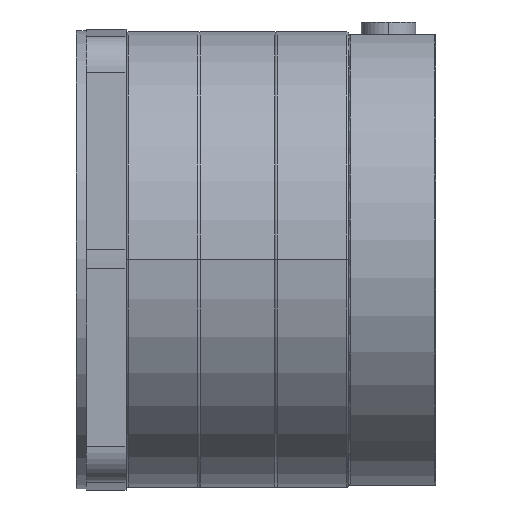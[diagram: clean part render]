
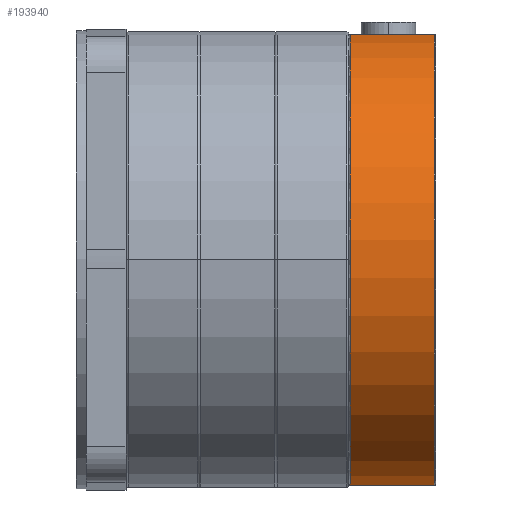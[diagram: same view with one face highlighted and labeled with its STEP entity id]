
A CAD part, top view. The second image highlights one B-rep face of the part: STEP entity #193940.
In plain terms, the highlighted cylindrical face has radius 92 mm (diameter 184 mm), a partial arc.
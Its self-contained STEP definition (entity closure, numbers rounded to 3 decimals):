
#56490=CARTESIAN_POINT('',(87.,0.,0.
));
#56500=DIRECTION('',(1.,0.,0.));
#56510=DIRECTION('',(0.,0.,-1.));
#56520=AXIS2_PLACEMENT_3D('',#56490,#56500,#56510);
#56530=CIRCLE('',#56520,92.);
#59300=CARTESIAN_POINT('',(104.,0.,
0.));
#59310=DIRECTION('',(-1.,0.,0.));
#59320=DIRECTION('',(0.,0.,-1.));
#59330=AXIS2_PLACEMENT_3D('',#59300,#59310,#59320);
#59340=CYLINDRICAL_SURFACE('',#59330,92.);
#59440=CARTESIAN_POINT('',(121.,0.,
0.));
#59450=DIRECTION('',(1.,0.,0.));
#59460=DIRECTION('',(0.,0.,-1.));
#59470=AXIS2_PLACEMENT_3D('',#59440,#59450,#59460);
#59480=CIRCLE('',#59470,92.);
#63880=CARTESIAN_POINT('',(121.,-91.,-13.528));
#63890=VERTEX_POINT('',#63880);
#63920=CARTESIAN_POINT('',(104.,-91.,-13.528));
#63930=DIRECTION('',(-1.,0.,0.));
#63940=VECTOR('',#63930,1.);
#63950=LINE('',#63920,#63940);
#63960=CARTESIAN_POINT('',(87.,-91.,
-13.528));
#63970=VERTEX_POINT('',#63960);
#63980=EDGE_CURVE('',#63890,#63970,#63950,.T.);
#184570=CARTESIAN_POINT('',(104.,91.,-13.528));
#184580=DIRECTION('',(-1.,0.,0.));
#184590=VECTOR('',#184580,1.);
#184600=LINE('',#184570,#184590);
#184610=CARTESIAN_POINT('',(121.,91.,-13.528));
#184620=VERTEX_POINT('',#184610);
#184630=CARTESIAN_POINT('',(87.,91.,
-13.528));
#184640=VERTEX_POINT('',#184630);
#184650=EDGE_CURVE('',#184620,#184640,#184600,.T.);
#193730=EDGE_CURVE('',#63970,#184640,#56530,.T.);
#193830=EDGE_CURVE('',#63890,#184620,#59480,.T.);
#193880=ORIENTED_EDGE('',*,*,#63980,.T.);
#193890=ORIENTED_EDGE('',*,*,#193830,.F.);
#193900=ORIENTED_EDGE('',*,*,#184650,.F.);
#193910=ORIENTED_EDGE('',*,*,#193730,.T.);
#193920=EDGE_LOOP('',(#193910,#193900,#193890,#193880));
#193930=FACE_OUTER_BOUND('',#193920,.T.);
#193940=ADVANCED_FACE('',(#193930),#59340,.T.);
